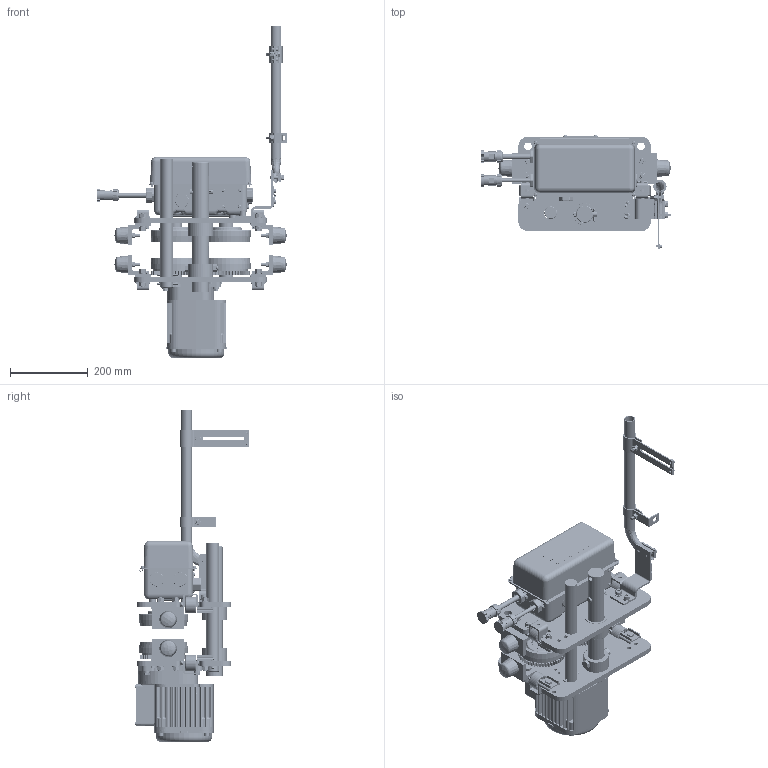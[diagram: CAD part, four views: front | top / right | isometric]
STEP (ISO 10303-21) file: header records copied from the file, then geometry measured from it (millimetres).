
FILE_DESCRIPTION (( 'STEP AP214' ), '1' );
FILE_NAME ('MR030S.STEP', '2026-08-10T14:57:22', ( '' ), ( '' ), 'SwSTEP 2.0', 'SolidWorks 2026', '' );
FILE_SCHEMA (( 'AUTOMOTIVE_DESIGN' ));
Length unit declared in the file: inch
Products named in the file (93): MR1DS9421; MR1DS1481; ECP5924AD1; ECP5924AB1; J1PS31-050025; M6F554010; MS006020; MR2SHM30S9A7; ECP5924AA1; MS164030; E6L614010S; MS517010; 70130XX_7013002; MR1DS9411; MR1DS9481; MR2DS2811; MR1FS9131_MR1FS9131; MR1DS9491; MR1DS9248; MR1DS9492; 9012712_9012712; MR2DS1759; 16-6P (MR2); J1GR020-0630; MR1ES12112; 16-4 (MR2); MR1FS9201; MR1DS9493; 9093352_9093352; 9093329_9093329; 9093424_9093424; MS527010; MR1ES92151; M6SE030S9102; MS162030_MS162030; 60704; MR1FS9202; 6077801; T3P153050; MS551010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
Assembly tree (232 placements, depth 5):
  MR030S
    MR1FS5201
      MR1FS9201
      MR1FS9203  x2
      MR1FS9204
    MR1FS5202
      MR1FS9202
      MR1FS9203  x2
      MR1FS9205
    MS1101030  x2
      M6SE030S9101
      J1SR000-00062_JIS B 2804 Hole use 62
      J1GR020-0630
    MS1102030  x2
      M6SE030S9102
      J1SR000-00062_JIS B 2804 Hole use 62
      J1GR020-0630
    MR1ES9634  x4
    MS006020  x4
    MR1ES12112  x2
      M7SE020S91422
      J1PS31-050025
      MR1ES22111
      MR2DS92171
      MR1ES92151
      MR1ES9218
    MR1ES12112_Reversed  x2
      M7SE020S91422
      J1PS31-050025
      MR1ES22111
      MR2DS92171
      MR1ES92151
      MR1ES9218
    MR1FS9631  x4
    9012711_9012711  x8
    9093424_9093424  x4
    9093351_9093351  x4
    9012712_9012712  x14
    9093427_9093427  x12
    9093352_9093352  x8
    9047125_B27.7M - 3AM1-23  x4
    70130XX_7013002
      MR1DS9411
      MR1DS9401_1 - 8 TON & 10 L TON
      MR1DS9421
      MS554010  x12
      MR2DS2811
        ECP5924AH
        MS527010
        MR2DI1811
        ES558003  x4
      MS517010  x4
      MS551010  x4
      MR2DS1768
        60704
          ECP5924AA1
          ECP5924AD1
          ECP5924AC1
          KITO-WASHER
          ECP5924AB1
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Bounding box: 489.68 x 293.09 x 851.98 mm (x, y, z)
Volume: 7862973.2 mm3; surface area: 2254789 mm2
Topology: 264 solids, 280 shells, 10144 faces, 26958 edges, 17612 vertices
Faces by surface type: plane 4715, cylinder 2848, cone 1385, bspline 688, torus 404, sphere 104
Entity records: 208468 total; most frequent: CARTESIAN_POINT 81801, ORIENTED_EDGE 26294, DIRECTION 24155, EDGE_CURVE 13149, AXIS2_PLACEMENT_3D 8775, VERTEX_POINT 8752, VECTOR 6605, LINE 6605
